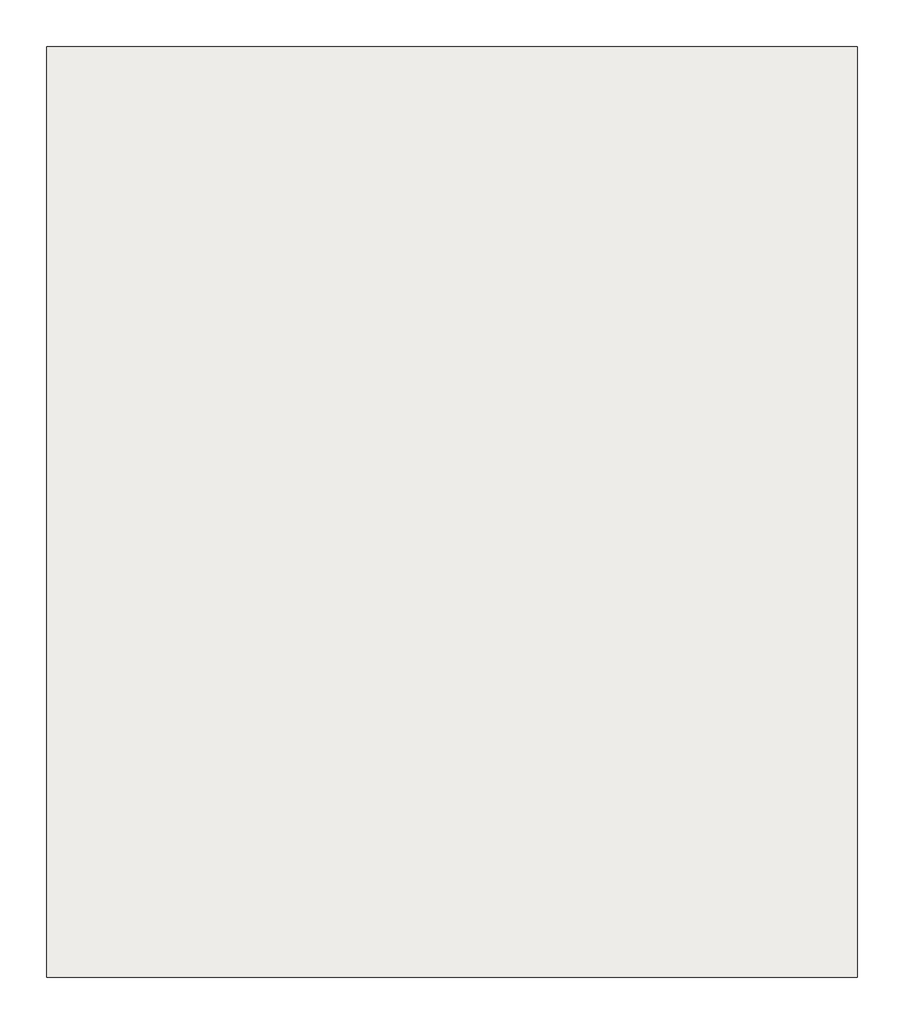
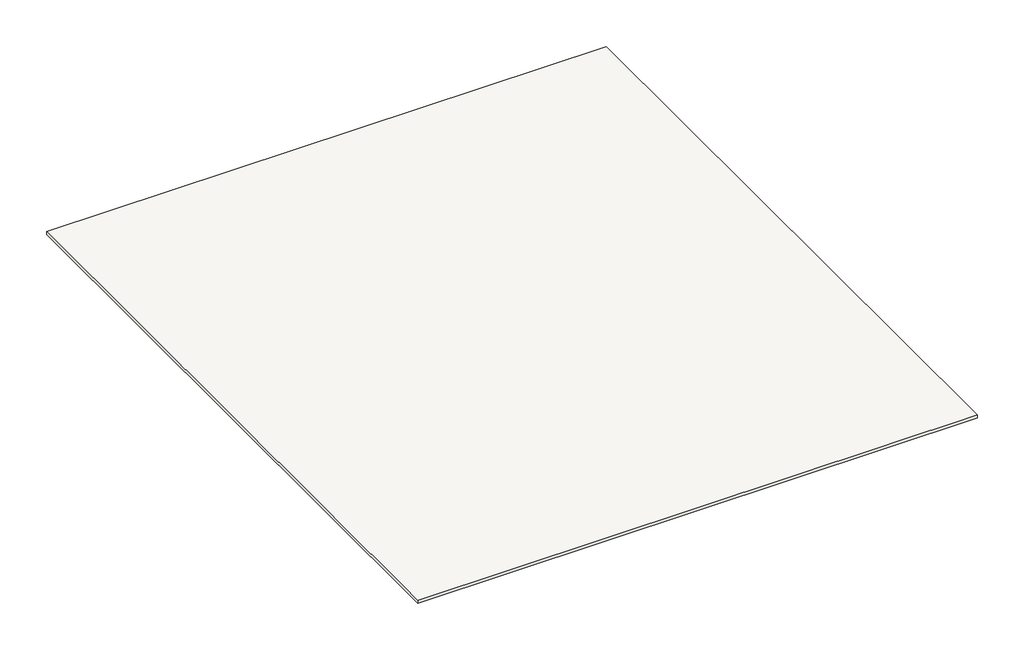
# One storey, incomplete: 1 slab.
"""IFC4 building model written with IfcOpenShell, lengths in millimetres."""

from ifc_helpers import new_model, si_unit, frame, origin, place, context, project, spatial, polyline, outline, extrude, element, save

model = new_model("IFC4")

# Units and contexts
model_context = context("Model", 3, world=origin())
ifc_project = project(units=[si_unit("LENGTHUNIT", "METRE", prefix="MILLI")], contexts=[model_context])

# Site, building, storey
site = spatial("IfcSite", under=ifc_project)
building = spatial("IfcBuilding", under=site)
storey = spatial("IfcBuildingStorey", under=building, Name="Nível 1", Elevation=0.0)

# Slab
placement = place(None, origin())
element("IfcSlab", 1, ObjectType="Genérico 150 mm", at=placement, inside=storey, context=model_context, shape_type="SweptSolid", body=[
    extrude(outline(polyline([(16723.0871875, 12830.2563795), (16723.0871875, -18169.7436205), (-10276.9128125, -18169.7436205), (-10276.9128125, 12830.2563795), (16723.0871875, 12830.2563795)])), frame((0.0, 0.0, -150.0), z_axis=(0.0, 0.0, 1.0), x_axis=(1.0, 0.0, 0.0)), (0.0, 0.0, 1.0), 150.0),
])

save(model, "model.ifc")
